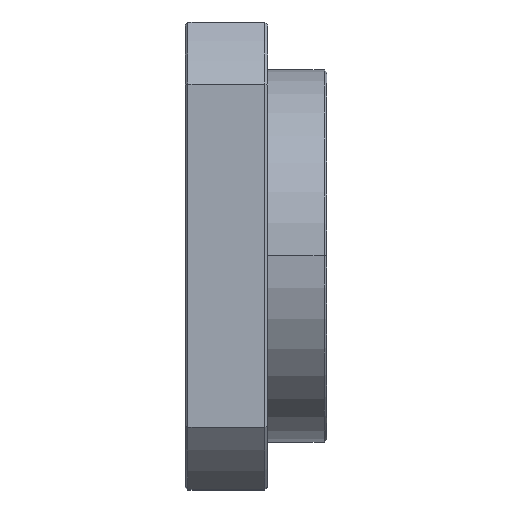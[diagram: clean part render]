
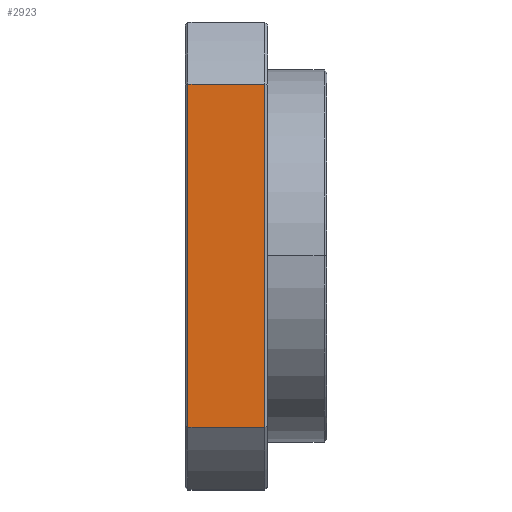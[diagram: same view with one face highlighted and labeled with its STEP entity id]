
A CAD part, top view. The second image highlights one B-rep face of the part: STEP entity #2923.
In plain terms, the highlighted planar face has unit normal (0, 0, 1).
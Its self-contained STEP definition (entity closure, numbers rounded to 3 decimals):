
#77 = EDGE_CURVE ( 'NONE', #1151, #3226, #2994, .T. ) ;
#392 = CARTESIAN_POINT ( 'NONE',  ( 13.5, -28.996, 39.5 ) ) ;
#561 = VERTEX_POINT ( 'NONE', #1779 ) ;
#650 = VECTOR ( 'NONE', #2294, 1000. ) ;
#651 = VECTOR ( 'NONE', #1636, 1000. ) ;
#1085 = AXIS2_PLACEMENT_3D ( 'NONE', #2436, #2418, #2407 ) ;
#1145 = EDGE_CURVE ( 'NONE', #3427, #561, #2763, .T. ) ;
#1151 = VERTEX_POINT ( 'NONE', #1978 ) ;
#1446 = EDGE_CURVE ( 'NONE', #561, #1151, #2273, .T. ) ;
#1485 = ORIENTED_EDGE ( 'NONE', *, *, #1145, .T. ) ;
#1548 = CARTESIAN_POINT ( 'NONE',  ( 0.5, -28.996, 39.5 ) ) ;
#1636 = DIRECTION ( 'NONE',  ( -1., 0., 0. ) ) ;
#1779 = CARTESIAN_POINT ( 'NONE',  ( 13.5, 28.996, 39.5 ) ) ;
#1781 = CARTESIAN_POINT ( 'NONE',  ( -81.647, 28.996, 39.5 ) ) ;
#1978 = CARTESIAN_POINT ( 'NONE',  ( 0.5, 28.996, 39.5 ) ) ;
#1986 = DIRECTION ( 'NONE',  ( 0., 1., 0. ) ) ;
#2014 = CARTESIAN_POINT ( 'NONE',  ( 13.5, 28.996, 39.5 ) ) ;
#2051 = VECTOR ( 'NONE', #2713, 1000. ) ;
#2184 = FACE_OUTER_BOUND ( 'NONE', #3708, .T. ) ;
#2273 = LINE ( 'NONE', #1781, #651 ) ;
#2294 = DIRECTION ( 'NONE',  ( 0., -1., 0. ) ) ;
#2296 = CARTESIAN_POINT ( 'NONE',  ( 0.5, -28.996, 39.5 ) ) ;
#2374 = ORIENTED_EDGE ( 'NONE', *, *, #77, .T. ) ;
#2407 = DIRECTION ( 'NONE',  ( 1., 0., 0. ) ) ;
#2418 = DIRECTION ( 'NONE',  ( 0., 0., 1. ) ) ;
#2429 = PLANE ( 'NONE',  #1085 ) ;
#2436 = CARTESIAN_POINT ( 'NONE',  ( 50., -39.5, 39.5 ) ) ;
#2684 = VECTOR ( 'NONE', #1986, 1000. ) ;
#2713 = DIRECTION ( 'NONE',  ( 1., 0., 0. ) ) ;
#2740 = CARTESIAN_POINT ( 'NONE',  ( -81.647, -28.996, 39.5 ) ) ;
#2763 = LINE ( 'NONE', #2014, #2684 ) ;
#2836 = LINE ( 'NONE', #2740, #2051 ) ;
#2923 = ADVANCED_FACE ( 'NONE', ( #2184 ), #2429, .T. ) ;
#2994 = LINE ( 'NONE', #2296, #650 ) ;
#3226 = VERTEX_POINT ( 'NONE', #1548 ) ;
#3378 = ORIENTED_EDGE ( 'NONE', *, *, #1446, .T. ) ;
#3427 = VERTEX_POINT ( 'NONE', #392 ) ;
#3478 = ORIENTED_EDGE ( 'NONE', *, *, #3579, .T. ) ;
#3579 = EDGE_CURVE ( 'NONE', #3226, #3427, #2836, .T. ) ;
#3708 = EDGE_LOOP ( 'NONE', ( #3378, #2374, #3478, #1485 ) ) ;
